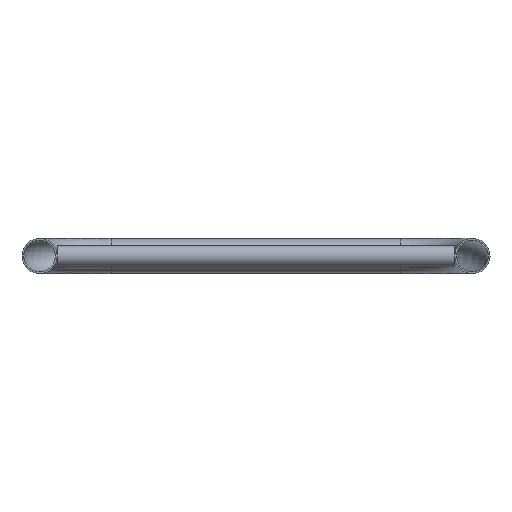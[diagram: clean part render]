
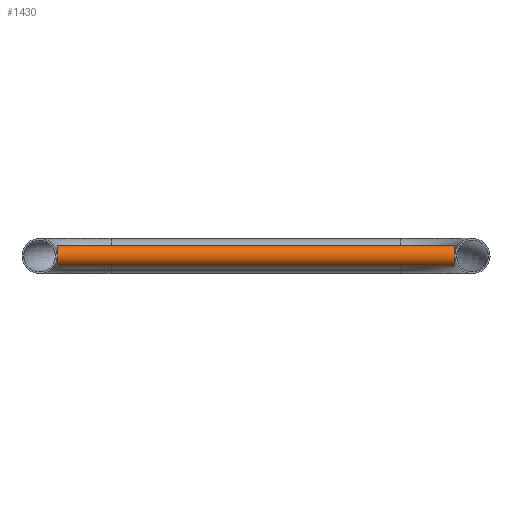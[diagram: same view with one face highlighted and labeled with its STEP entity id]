
A CAD part, front view. The second image highlights one B-rep face of the part: STEP entity #1430.
In plain terms, the highlighted cylindrical face has radius 12.5 mm (diameter 25 mm), a full revolution.
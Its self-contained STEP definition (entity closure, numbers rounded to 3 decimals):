
#1403=CARTESIAN_POINT('',(0.0,0.0,0.0));
#1404=DIRECTION('',(0.0,0.0,1.0));
#1405=DIRECTION('',(-1.0,0.0,0.0));
#1406=AXIS2_PLACEMENT_3D('',#1403,#1404,#1405);
#1407=CYLINDRICAL_SURFACE('',#1406,12.5);
#1408=CARTESIAN_POINT('',(12.5,0.,480.6));
#1409=VERTEX_POINT('',#1408);
#1410=CARTESIAN_POINT('',(0.0,0.0,480.6));
#1411=DIRECTION('',(0.0,0.0,-1.0));
#1412=DIRECTION('',(-1.0,0.0,0.0));
#1413=AXIS2_PLACEMENT_3D('',#1410,#1411,#1412);
#1414=CIRCLE('',#1413,12.5);
#1415=EDGE_CURVE('',#1409,#1409,#1414,.T.);
#1416=ORIENTED_EDGE('',*,*,#1415,.T.);
#1417=EDGE_LOOP('',(#1416));
#1418=FACE_OUTER_BOUND('',#1417,.T.);
#1419=CARTESIAN_POINT('',(12.5,0.,0.0));
#1420=VERTEX_POINT('',#1419);
#1421=CARTESIAN_POINT('',(0.0,0.0,0.0));
#1422=DIRECTION('',(0.0,0.0,-1.0));
#1423=DIRECTION('',(-1.0,0.0,0.0));
#1424=AXIS2_PLACEMENT_3D('',#1421,#1422,#1423);
#1425=CIRCLE('',#1424,12.5);
#1426=EDGE_CURVE('',#1420,#1420,#1425,.T.);
#1427=ORIENTED_EDGE('',*,*,#1426,.F.);
#1428=EDGE_LOOP('',(#1427));
#1429=FACE_BOUND('',#1428,.T.);
#1430=ADVANCED_FACE('',(#1418,#1429),#1407,.T.);
